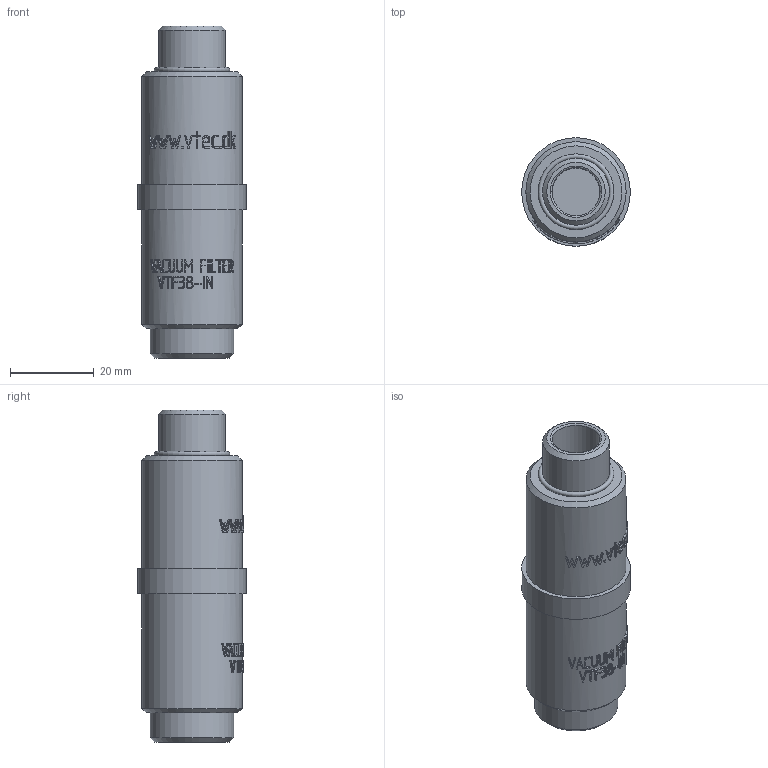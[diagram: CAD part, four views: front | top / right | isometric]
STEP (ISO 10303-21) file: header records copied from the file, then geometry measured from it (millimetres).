
FILE_DESCRIPTION( ( 'STEP AP214' ), '1' );
FILE_NAME( 'C:/撲啗紫賊-02/3D-Step File/Accessories/Vacuum Filter/VTF38-IN.stp', '2006-04-24T06:08:23', ( ' ' ), ( ' ' ), 'XStep 1.0', ' ', ' ' );
FILE_SCHEMA( ( 'CONFIG_CONTROL_DESIGN) ( )' ) );
Length unit declared in the file: metre
Products named in the file (1): 1
Bounding box: 26 x 26 x 79.5 mm (x, y, z)
Volume: 24115.3 mm3; surface area: 9672.9 mm2
Topology: 1 solids, 2 shells, 310 faces, 787 edges, 523 vertices
Faces by surface type: plane 163, bspline 94, cylinder 45, torus 4, cone 4
Full cylindrical faces by diameter (mm): 11.5 x1, 14 x1, 16 x2, 20 x1, 24 x2, 26 x1
Entity records: 17759 total; most frequent: CARTESIAN_POINT 8336, ORIENTED_EDGE 1532, DIRECTION 1192, EDGE_CURVE 766, VERTEX_POINT 520, AXIS2_PLACEMENT_3D 411, EDGE_LOOP 372, LINE 370
